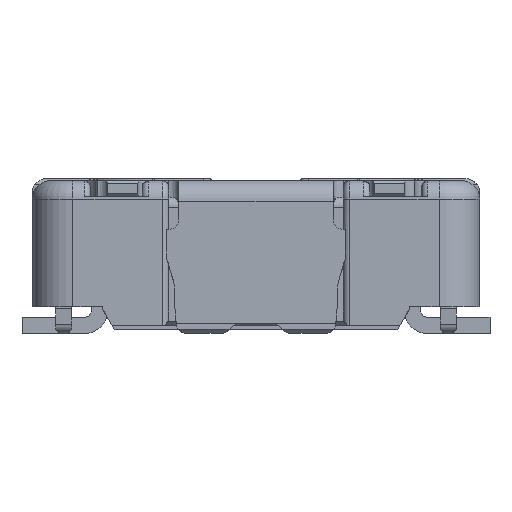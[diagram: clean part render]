
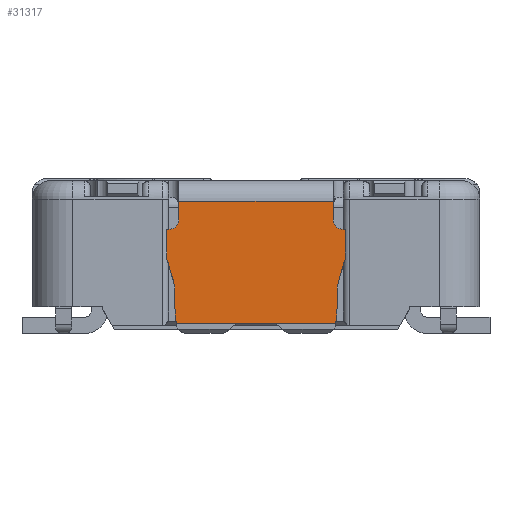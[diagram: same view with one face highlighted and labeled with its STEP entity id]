
A CAD part, front view. The second image highlights one B-rep face of the part: STEP entity #31317.
In plain terms, the highlighted planar face has unit normal (0, -1, 0).
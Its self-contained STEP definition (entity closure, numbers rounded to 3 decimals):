
#104 = CARTESIAN_POINT ( 'NONE',  ( 0.4, -1.34, 0.228 ) ) ;
#226 = CARTESIAN_POINT ( 'NONE',  ( -0.38, -1.34, 0.65 ) ) ;
#1567 = ORIENTED_EDGE ( 'NONE', *, *, #46493, .F. ) ;
#1804 = VERTEX_POINT ( 'NONE', #33251 ) ;
#2259 = CARTESIAN_POINT ( 'NONE',  ( 0.43, -1.34, 0.51 ) ) ;
#3259 = ORIENTED_EDGE ( 'NONE', *, *, #35540, .T. ) ;
#3707 = VECTOR ( 'NONE', #16044, 1000. ) ;
#3747 = CARTESIAN_POINT ( 'NONE',  ( -0.4, -1.34, 0.228 ) ) ;
#4466 = VECTOR ( 'NONE', #55378, 1000. ) ;
#4848 = DIRECTION ( 'NONE',  ( 0., 0., -1. ) ) ;
#4900 = CARTESIAN_POINT ( 'NONE',  ( 0.43, -1.34, 0.56 ) ) ;
#5006 = CARTESIAN_POINT ( 'NONE',  ( -0.438, -1.34, 0.02 ) ) ;
#5231 = VERTEX_POINT ( 'NONE', #21134 ) ;
#6435 = EDGE_CURVE ( 'NONE', #56570, #23112, #31711, .T. ) ;
#6449 = VERTEX_POINT ( 'NONE', #46515 ) ;
#6848 = CARTESIAN_POINT ( 'NONE',  ( 0.445, -1.34, 0.51 ) ) ;
#7870 = ORIENTED_EDGE ( 'NONE', *, *, #19289, .T. ) ;
#8063 = EDGE_CURVE ( 'NONE', #1804, #43270, #54346, .T. ) ;
#8495 = CARTESIAN_POINT ( 'NONE',  ( -0.4, -1.34, 0.14 ) ) ;
#8678 = LINE ( 'NONE', #42229, #31588 ) ;
#9052 = VERTEX_POINT ( 'NONE', #21577 ) ;
#9204 = EDGE_CURVE ( 'NONE', #50960, #11501, #53411, .T. ) ;
#9466 = VECTOR ( 'NONE', #16301, 1000. ) ;
#9471 = LINE ( 'NONE', #39086, #3707 ) ;
#9516 = DIRECTION ( 'NONE',  ( 0., 0., -1. ) ) ;
#9738 = DIRECTION ( 'NONE',  ( 0., 1., 0. ) ) ;
#11169 = CARTESIAN_POINT ( 'NONE',  ( -0.43, -1.34, 0.51 ) ) ;
#11501 = VERTEX_POINT ( 'NONE', #11169 ) ;
#11614 = CARTESIAN_POINT ( 'NONE',  ( 0.402, -1.34, 0.242 ) ) ;
#11697 = CARTESIAN_POINT ( 'NONE',  ( 0.388, -1.34, 0. ) ) ;
#12066 = VERTEX_POINT ( 'NONE', #52423 ) ;
#12322 = EDGE_CURVE ( 'NONE', #44983, #23112, #36397, .T. ) ;
#12676 = LINE ( 'NONE', #41343, #23424 ) ;
#13638 = AXIS2_PLACEMENT_3D ( 'NONE', #50246, #22774, #54868 ) ;
#14378 = ORIENTED_EDGE ( 'NONE', *, *, #58902, .F. ) ;
#14868 = DIRECTION ( 'NONE',  ( 0., 1., 0. ) ) ;
#15401 = VECTOR ( 'NONE', #59560, 1000. ) ;
#16044 = DIRECTION ( 'NONE',  ( -0.087, 0., 0.996 ) ) ;
#16245 = LINE ( 'NONE', #51900, #51419 ) ;
#16301 = DIRECTION ( 'NONE',  ( -0.087, 0., -0.996 ) ) ;
#17661 = CARTESIAN_POINT ( 'NONE',  ( -0.38, -1.34, 0.65 ) ) ;
#17699 = VECTOR ( 'NONE', #25552, 1000. ) ;
#18053 = CARTESIAN_POINT ( 'NONE',  ( -0.4, -1.34, 0.235 ) ) ;
#18110 = LINE ( 'NONE', #6848, #42475 ) ;
#18166 = CARTESIAN_POINT ( 'NONE',  ( 0.445, -1.34, 0.51 ) ) ;
#18276 = PLANE ( 'NONE',  #55892 ) ;
#18903 = ORIENTED_EDGE ( 'NONE', *, *, #36636, .T. ) ;
#19289 = EDGE_CURVE ( 'NONE', #44983, #55552, #27598, .T. ) ;
#19341 = DIRECTION ( 'NONE',  ( 1., 0., 0. ) ) ;
#20037 = CARTESIAN_POINT ( 'NONE',  ( 0.392, -1.34, 0.05 ) ) ;
#20042 = EDGE_CURVE ( 'NONE', #11501, #5231, #18110, .T. ) ;
#20180 = ORIENTED_EDGE ( 'NONE', *, *, #40334, .F. ) ;
#20924 = CARTESIAN_POINT ( 'NONE',  ( 0.4, -1.34, 0.235 ) ) ;
#21134 = CARTESIAN_POINT ( 'NONE',  ( -0.438, -1.34, 0.51 ) ) ;
#21577 = CARTESIAN_POINT ( 'NONE',  ( 0.38, -1.34, 0.65 ) ) ;
#21976 = EDGE_CURVE ( 'NONE', #37737, #5231, #44285, .T. ) ;
#22036 = DIRECTION ( 'NONE',  ( 0.279, 0., -0.96 ) ) ;
#22669 = EDGE_LOOP ( 'NONE', ( #57322, #43565, #18903, #53506, #20180, #26676, #31363, #45892, #36941, #34819, #40535, #7870, #3259, #14378, #1567, #37755, #23675, #54280 ) ) ;
#22774 = DIRECTION ( 'NONE',  ( 0., 1., 0. ) ) ;
#23112 = VERTEX_POINT ( 'NONE', #41131 ) ;
#23114 = DIRECTION ( 'NONE',  ( 0., 0., -1. ) ) ;
#23424 = VECTOR ( 'NONE', #23114, 1000. ) ;
#23467 = CARTESIAN_POINT ( 'NONE',  ( 0.445, -1.34, 0.39 ) ) ;
#23675 = ORIENTED_EDGE ( 'NONE', *, *, #9204, .T. ) ;
#24159 = CARTESIAN_POINT ( 'NONE',  ( -0.438, -1.34, 0.365 ) ) ;
#24258 = VECTOR ( 'NONE', #55457, 1000. ) ;
#25400 = LINE ( 'NONE', #18053, #34693 ) ;
#25552 = DIRECTION ( 'NONE',  ( 0., 0., 1. ) ) ;
#26676 = ORIENTED_EDGE ( 'NONE', *, *, #53571, .F. ) ;
#26879 = DIRECTION ( 'NONE',  ( 0., 0., -1. ) ) ;
#27268 = VERTEX_POINT ( 'NONE', #17661 ) ;
#27598 = LINE ( 'NONE', #18166, #15401 ) ;
#29017 = DIRECTION ( 'NONE',  ( -1., 0., 0. ) ) ;
#29419 = EDGE_CURVE ( 'NONE', #45837, #31227, #25400, .T. ) ;
#31227 = VERTEX_POINT ( 'NONE', #8495 ) ;
#31317 = ADVANCED_FACE ( 'NONE', ( #51512 ), #18276, .T. ) ;
#31363 = ORIENTED_EDGE ( 'NONE', *, *, #57504, .F. ) ;
#31588 = VECTOR ( 'NONE', #19341, 1000. ) ;
#31711 = LINE ( 'NONE', #23467, #4466 ) ;
#31816 = EDGE_CURVE ( 'NONE', #37737, #12066, #36274, .T. ) ;
#32276 = DIRECTION ( 'NONE',  ( 0., -1., 0. ) ) ;
#32326 = CARTESIAN_POINT ( 'NONE',  ( 0.38, -1.34, 0.65 ) ) ;
#33251 = CARTESIAN_POINT ( 'NONE',  ( 0.4, -1.34, 0.14 ) ) ;
#33794 = LINE ( 'NONE', #11697, #9466 ) ;
#33867 = CARTESIAN_POINT ( 'NONE',  ( 0.438, -1.34, 0.51 ) ) ;
#34068 = DIRECTION ( 'NONE',  ( -1., 0., 0. ) ) ;
#34693 = VECTOR ( 'NONE', #26879, 1000. ) ;
#34819 = ORIENTED_EDGE ( 'NONE', *, *, #6435, .T. ) ;
#35540 = EDGE_CURVE ( 'NONE', #55552, #6449, #50077, .T. ) ;
#35949 = CARTESIAN_POINT ( 'NONE',  ( -0.38, -1.34, 0.56 ) ) ;
#36274 = LINE ( 'NONE', #49504, #47061 ) ;
#36397 = LINE ( 'NONE', #57166, #59457 ) ;
#36636 = EDGE_CURVE ( 'NONE', #12066, #45837, #37547, .T. ) ;
#36941 = ORIENTED_EDGE ( 'NONE', *, *, #43293, .T. ) ;
#36943 = DIRECTION ( 'NONE',  ( 0., 1., 0. ) ) ;
#37173 = CARTESIAN_POINT ( 'NONE',  ( 0.45, -1.34, 0.228 ) ) ;
#37547 = CIRCLE ( 'NONE', #46986, 0.05 ) ;
#37737 = VERTEX_POINT ( 'NONE', #24159 ) ;
#37755 = ORIENTED_EDGE ( 'NONE', *, *, #55918, .T. ) ;
#38854 = DIRECTION ( 'NONE',  ( 0., 0., -1. ) ) ;
#39086 = CARTESIAN_POINT ( 'NONE',  ( -0.388, -1.34, 0. ) ) ;
#40334 = EDGE_CURVE ( 'NONE', #47094, #31227, #9471, .T. ) ;
#40350 = AXIS2_PLACEMENT_3D ( 'NONE', #4900, #36943, #9516 ) ;
#40535 = ORIENTED_EDGE ( 'NONE', *, *, #12322, .F. ) ;
#41131 = CARTESIAN_POINT ( 'NONE',  ( 0.438, -1.34, 0.365 ) ) ;
#41343 = CARTESIAN_POINT ( 'NONE',  ( -0.38, -1.34, 0.65 ) ) ;
#41769 = DIRECTION ( 'NONE',  ( 0., 0., -1. ) ) ;
#42070 = AXIS2_PLACEMENT_3D ( 'NONE', #37173, #9738, #41769 ) ;
#42229 = CARTESIAN_POINT ( 'NONE',  ( -0.38, -1.34, 0.65 ) ) ;
#42299 = CARTESIAN_POINT ( 'NONE',  ( -0.45, -1.34, 0.228 ) ) ;
#42475 = VECTOR ( 'NONE', #34068, 1000. ) ;
#43270 = VERTEX_POINT ( 'NONE', #104 ) ;
#43293 = EDGE_CURVE ( 'NONE', #43270, #56570, #47819, .T. ) ;
#43565 = ORIENTED_EDGE ( 'NONE', *, *, #31816, .T. ) ;
#44285 = LINE ( 'NONE', #5006, #55108 ) ;
#44983 = VERTEX_POINT ( 'NONE', #33867 ) ;
#45837 = VERTEX_POINT ( 'NONE', #3747 ) ;
#45892 = ORIENTED_EDGE ( 'NONE', *, *, #8063, .T. ) ;
#46493 = EDGE_CURVE ( 'NONE', #27268, #9052, #8678, .T. ) ;
#46515 = CARTESIAN_POINT ( 'NONE',  ( 0.38, -1.34, 0.56 ) ) ;
#46910 = DIRECTION ( 'NONE',  ( 0., 0., -1. ) ) ;
#46986 = AXIS2_PLACEMENT_3D ( 'NONE', #42299, #14868, #46910 ) ;
#47061 = VECTOR ( 'NONE', #22036, 1000. ) ;
#47094 = VERTEX_POINT ( 'NONE', #55856 ) ;
#47819 = CIRCLE ( 'NONE', #42070, 0.05 ) ;
#49504 = CARTESIAN_POINT ( 'NONE',  ( -0.445, -1.34, 0.39 ) ) ;
#50077 = CIRCLE ( 'NONE', #40350, 0.05 ) ;
#50121 = LINE ( 'NONE', #32326, #24258 ) ;
#50246 = CARTESIAN_POINT ( 'NONE',  ( -0.43, -1.34, 0.56 ) ) ;
#50960 = VERTEX_POINT ( 'NONE', #35949 ) ;
#51419 = VECTOR ( 'NONE', #29017, 1000. ) ;
#51512 = FACE_OUTER_BOUND ( 'NONE', #22669, .T. ) ;
#51572 = VERTEX_POINT ( 'NONE', #20037 ) ;
#51900 = CARTESIAN_POINT ( 'NONE',  ( 0.1, -1.34, 0.05 ) ) ;
#52423 = CARTESIAN_POINT ( 'NONE',  ( -0.402, -1.34, 0.242 ) ) ;
#53411 = CIRCLE ( 'NONE', #13638, 0.05 ) ;
#53506 = ORIENTED_EDGE ( 'NONE', *, *, #29419, .T. ) ;
#53571 = EDGE_CURVE ( 'NONE', #51572, #47094, #16245, .T. ) ;
#54280 = ORIENTED_EDGE ( 'NONE', *, *, #20042, .T. ) ;
#54346 = LINE ( 'NONE', #20924, #17699 ) ;
#54868 = DIRECTION ( 'NONE',  ( 0., 0., -1. ) ) ;
#55108 = VECTOR ( 'NONE', #55573, 1000. ) ;
#55378 = DIRECTION ( 'NONE',  ( 0.279, 0., 0.96 ) ) ;
#55457 = DIRECTION ( 'NONE',  ( 0., 0., -1. ) ) ;
#55552 = VERTEX_POINT ( 'NONE', #2259 ) ;
#55573 = DIRECTION ( 'NONE',  ( 0., 0., 1. ) ) ;
#55856 = CARTESIAN_POINT ( 'NONE',  ( -0.392, -1.34, 0.05 ) ) ;
#55892 = AXIS2_PLACEMENT_3D ( 'NONE', #226, #32276, #4848 ) ;
#55918 = EDGE_CURVE ( 'NONE', #27268, #50960, #12676, .T. ) ;
#56570 = VERTEX_POINT ( 'NONE', #11614 ) ;
#57166 = CARTESIAN_POINT ( 'NONE',  ( 0.438, -1.34, 0.02 ) ) ;
#57322 = ORIENTED_EDGE ( 'NONE', *, *, #21976, .F. ) ;
#57504 = EDGE_CURVE ( 'NONE', #1804, #51572, #33794, .T. ) ;
#58902 = EDGE_CURVE ( 'NONE', #9052, #6449, #50121, .T. ) ;
#59457 = VECTOR ( 'NONE', #38854, 1000. ) ;
#59560 = DIRECTION ( 'NONE',  ( -1., 0., 0. ) ) ;
